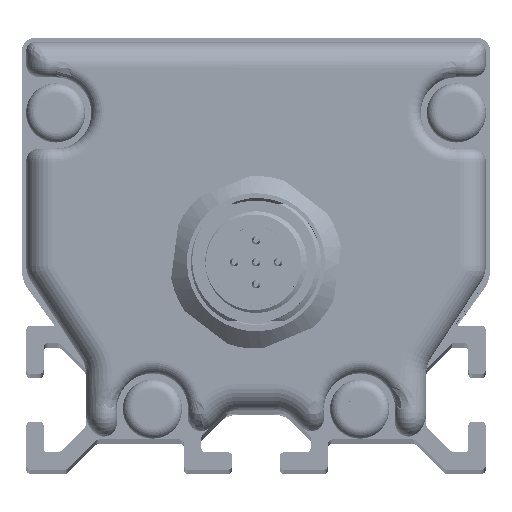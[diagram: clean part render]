
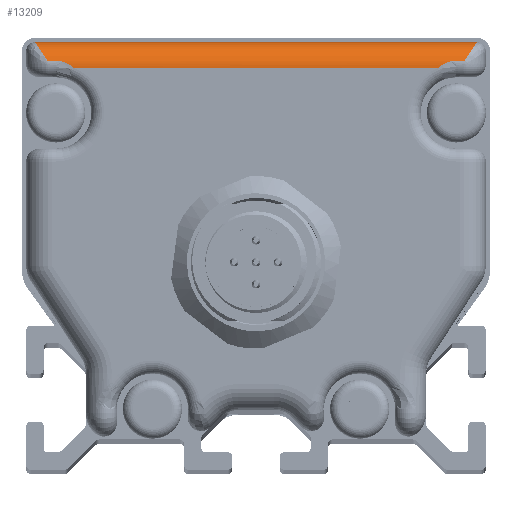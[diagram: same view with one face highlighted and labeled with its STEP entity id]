
A CAD part, top view. The second image highlights one B-rep face of the part: STEP entity #13209.
In plain terms, the highlighted cylindrical face has radius 3 mm (diameter 6 mm), a partial arc.
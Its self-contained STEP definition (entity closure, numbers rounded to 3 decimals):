
#3206 = LINE ( 'NONE', #125037, #35566 ) ;
#3700 = CARTESIAN_POINT ( 'NONE',  ( 25.6, 39., 8.38 ) ) ;
#5042 = ORIENTED_EDGE ( 'NONE', *, *, #110462, .F. ) ;
#5585 = EDGE_LOOP ( 'NONE', ( #100170, #104914, #9797, #5042, #6859, #66867, #9894, #23116 ) ) ;
#6859 = ORIENTED_EDGE ( 'NONE', *, *, #53400, .F. ) ;
#8332 = FACE_OUTER_BOUND ( 'NONE', #5585, .T. ) ;
#8719 = CARTESIAN_POINT ( 'NONE',  ( -21.208, 36.126, 10. ) ) ;
#9351 = CARTESIAN_POINT ( 'NONE',  ( -21.876, 36.54, 9.952 ) ) ;
#9608 = CYLINDRICAL_SURFACE ( 'NONE', #69975, 3. ) ;
#9797 = ORIENTED_EDGE ( 'NONE', *, *, #63503, .T. ) ;
#9894 = ORIENTED_EDGE ( 'NONE', *, *, #26916, .T. ) ;
#13209 = ADVANCED_FACE ( 'NONE', ( #8332 ), #9608, .T. ) ;
#13466 = CARTESIAN_POINT ( 'NONE',  ( 25.049, 38.174, 9.486 ) ) ;
#14405 = LINE ( 'NONE', #74431, #70016 ) ;
#15481 =( BOUNDED_CURVE ( )  B_SPLINE_CURVE ( 3, ( #67774, #26716, #16917, #37802 ),
 .UNSPECIFIED., .F., .T. ) 
 B_SPLINE_CURVE_WITH_KNOTS ( ( 4, 4 ),
 ( 5., 6.283 ),
 .UNSPECIFIED. ) 
 CURVE ( )  GEOMETRIC_REPRESENTATION_ITEM ( )  RATIONAL_B_SPLINE_CURVE ( ( 1., 0.867, 0.867, 1. ) ) 
 REPRESENTATION_ITEM ( '' )  );
#16046 = CARTESIAN_POINT ( 'NONE',  ( 24.167, 36.85, 9.877 ) ) ;
#16857 = CARTESIAN_POINT ( 'NONE',  ( 23.2, 36.85, 9.877 ) ) ;
#16917 = CARTESIAN_POINT ( 'NONE',  ( -25.6, 39., 8.38 ) ) ;
#17977 = CARTESIAN_POINT ( 'NONE',  ( -23.2, 36.85, 9.877 ) ) ;
#19174 = VERTEX_POINT ( 'NONE', #59359 ) ;
#22069 = VECTOR ( 'NONE', #118008, 1000. ) ;
#23116 = ORIENTED_EDGE ( 'NONE', *, *, #62474, .F. ) ;
#23199 = VERTEX_POINT ( 'NONE', #68052 ) ;
#26716 = CARTESIAN_POINT ( 'NONE',  ( -25.049, 38.174, 9.486 ) ) ;
#26845 = VERTEX_POINT ( 'NONE', #76571 ) ;
#26916 = EDGE_CURVE ( 'NONE', #63629, #26845, #54335, .T. ) ;
#28530 = DIRECTION ( 'NONE',  ( 1., 0., 0. ) ) ;
#28572 = CARTESIAN_POINT ( 'NONE',  ( 22.234, 36.689, 9.921 ) ) ;
#29208 = CARTESIAN_POINT ( 'NONE',  ( 22.807, 36.829, 9.883 ) ) ;
#30813 = CARTESIAN_POINT ( 'NONE',  ( 21.055, 36., 10. ) ) ;
#34347 = EDGE_CURVE ( 'NONE', #125464, #52402, #97740, .T. ) ;
#35566 = VECTOR ( 'NONE', #55811, 1000. ) ;
#37802 = CARTESIAN_POINT ( 'NONE',  ( -25.6, 39., 7. ) ) ;
#48472 = CARTESIAN_POINT ( 'NONE',  ( -21.055, 36., 10. ) ) ;
#49345 = CARTESIAN_POINT ( 'NONE',  ( 0., 36., 7. ) ) ;
#49723 = CARTESIAN_POINT ( 'NONE',  ( -21.7, 36.448, 9.968 ) ) ;
#50039 = CARTESIAN_POINT ( 'NONE',  ( 0., 36.85, 9.877 ) ) ;
#52130 = CARTESIAN_POINT ( 'NONE',  ( -23.002, 36.85, 9.877 ) ) ;
#52402 = VERTEX_POINT ( 'NONE', #71632 ) ;
#52769 = CARTESIAN_POINT ( 'NONE',  ( -22.803, 36.829, 9.884 ) ) ;
#53212 = B_SPLINE_CURVE_WITH_KNOTS ( 'NONE', 3,
 ( #127141, #108836, #106272, #28572, #76865, #29208, #58534, #76216 ),
 .UNSPECIFIED., .F., .F.,
 ( 4, 2, 2, 4 ),
 ( 0., 0.001, 0.002, 0.002 ),
 .UNSPECIFIED. ) ;
#53400 = EDGE_CURVE ( 'NONE', #77909, #23199, #15481, .T. ) ;
#54335 = B_SPLINE_CURVE_WITH_KNOTS ( 'NONE', 3,
 ( #69315, #52130, #52769, #108541, #98076, #9351, #49723, #81551, #8719, #48472 ),
 .UNSPECIFIED., .F., .F.,
 ( 4, 2, 2, 2, 4 ),
 ( 0., 0.001, 0.001, 0.002, 0.002 ),
 .UNSPECIFIED. ) ;
#54519 = CARTESIAN_POINT ( 'NONE',  ( 25.6, 39., 7. ) ) ;
#55811 = DIRECTION ( 'NONE',  ( 1., 0., 0. ) ) ;
#58534 = CARTESIAN_POINT ( 'NONE',  ( 23.002, 36.85, 9.877 ) ) ;
#59359 = CARTESIAN_POINT ( 'NONE',  ( 25.6, 39., 7. ) ) ;
#62474 = EDGE_CURVE ( 'NONE', #108422, #26845, #14405, .T. ) ;
#63141 = EDGE_CURVE ( 'NONE', #108422, #125464, #53212, .T. ) ;
#63503 = EDGE_CURVE ( 'NONE', #52402, #19174, #122992, .T. ) ;
#63629 = VERTEX_POINT ( 'NONE', #17977 ) ;
#66867 = ORIENTED_EDGE ( 'NONE', *, *, #110792, .T. ) ;
#67774 = CARTESIAN_POINT ( 'NONE',  ( -24.167, 36.85, 9.877 ) ) ;
#68052 = CARTESIAN_POINT ( 'NONE',  ( -25.6, 39., 7. ) ) ;
#69315 = CARTESIAN_POINT ( 'NONE',  ( -23.2, 36.85, 9.877 ) ) ;
#69975 = AXIS2_PLACEMENT_3D ( 'NONE', #49345, #28530, #89194 ) ;
#70016 = VECTOR ( 'NONE', #124712, 1000. ) ;
#70295 = LINE ( 'NONE', #121237, #96022 ) ;
#71632 = CARTESIAN_POINT ( 'NONE',  ( 24.167, 36.85, 9.877 ) ) ;
#74431 = CARTESIAN_POINT ( 'NONE',  ( -25.6, 36., 10. ) ) ;
#76216 = CARTESIAN_POINT ( 'NONE',  ( 23.2, 36.85, 9.877 ) ) ;
#76571 = CARTESIAN_POINT ( 'NONE',  ( -21.055, 36., 10. ) ) ;
#76865 = CARTESIAN_POINT ( 'NONE',  ( 22.424, 36.749, 9.905 ) ) ;
#77909 = VERTEX_POINT ( 'NONE', #100306 ) ;
#80103 = DIRECTION ( 'NONE',  ( 1., 0., 0. ) ) ;
#81551 = CARTESIAN_POINT ( 'NONE',  ( -21.367, 36.241, 9.992 ) ) ;
#89194 = DIRECTION ( 'NONE',  ( 0., 0., -1. ) ) ;
#96022 = VECTOR ( 'NONE', #80103, 1000. ) ;
#97740 = LINE ( 'NONE', #50039, #22069 ) ;
#98076 = CARTESIAN_POINT ( 'NONE',  ( -22.236, 36.689, 9.921 ) ) ;
#100170 = ORIENTED_EDGE ( 'NONE', *, *, #63141, .T. ) ;
#100306 = CARTESIAN_POINT ( 'NONE',  ( -24.167, 36.85, 9.877 ) ) ;
#104914 = ORIENTED_EDGE ( 'NONE', *, *, #34347, .T. ) ;
#106272 = CARTESIAN_POINT ( 'NONE',  ( 21.693, 36.464, 9.968 ) ) ;
#108422 = VERTEX_POINT ( 'NONE', #30813 ) ;
#108541 = CARTESIAN_POINT ( 'NONE',  ( -22.421, 36.748, 9.906 ) ) ;
#108836 = CARTESIAN_POINT ( 'NONE',  ( 21.36, 36.251, 10. ) ) ;
#110462 = EDGE_CURVE ( 'NONE', #23199, #19174, #70295, .T. ) ;
#110792 = EDGE_CURVE ( 'NONE', #77909, #63629, #3206, .T. ) ;
#118008 = DIRECTION ( 'NONE',  ( 1., 0., 0. ) ) ;
#121237 = CARTESIAN_POINT ( 'NONE',  ( 25.6, 39., 7. ) ) ;
#122992 =( BOUNDED_CURVE ( )  B_SPLINE_CURVE ( 3, ( #16046, #13466, #3700, #54519 ),
 .UNSPECIFIED., .F., .T. ) 
 B_SPLINE_CURVE_WITH_KNOTS ( ( 4, 4 ),
 ( 5., 6.283 ),
 .UNSPECIFIED. ) 
 CURVE ( )  GEOMETRIC_REPRESENTATION_ITEM ( )  RATIONAL_B_SPLINE_CURVE ( ( 1., 0.867, 0.867, 1. ) ) 
 REPRESENTATION_ITEM ( '' )  );
#124712 = DIRECTION ( 'NONE',  ( -1., 0., 0. ) ) ;
#125037 = CARTESIAN_POINT ( 'NONE',  ( 0., 36.85, 9.877 ) ) ;
#125464 = VERTEX_POINT ( 'NONE', #16857 ) ;
#127141 = CARTESIAN_POINT ( 'NONE',  ( 21.055, 36., 10. ) ) ;
